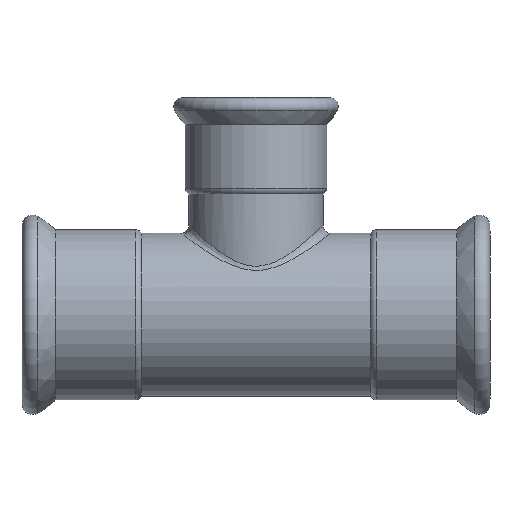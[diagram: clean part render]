
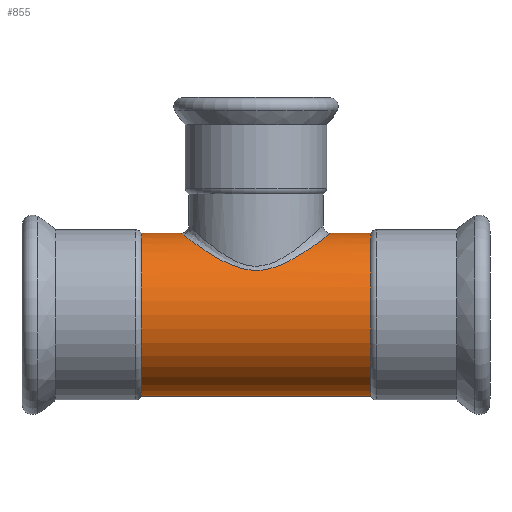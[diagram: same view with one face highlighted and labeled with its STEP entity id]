
A CAD part, front view. The second image highlights one B-rep face of the part: STEP entity #855.
In plain terms, the highlighted cylindrical face has radius 54 mm (diameter 108 mm), a full revolution.
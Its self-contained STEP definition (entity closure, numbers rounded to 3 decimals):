
#16=FACE_BOUND('',#109,.T.);
#22=B_SPLINE_CURVE_WITH_KNOTS('',3,(#2173,#2174,#2175,#2176,#2177,#2178,
#2179,#2180,#2181,#2182,#2183,#2184,#2185,#2186,#2187,#2188,#2189,#2190,
#2191,#2192,#2193,#2194,#2195,#2196,#2197,#2198,#2199,#2200,#2201,#2202,
#2203,#2204,#2205,#2206,#2207),.UNSPECIFIED.,.T.,.F.,(4,1,1,1,1,1,1,1,1,
1,1,1,1,1,1,1,1,1,1,1,1,1,1,1,1,1,1,1,1,1,1,1,4),(-28.921,-28.404,
-27.888,-26.855,-25.822,-24.789,
-23.412,-22.035,-20.658,-19.969,
-19.28,-18.592,-17.903,-16.526,
-15.837,-15.149,-14.46,-13.772,
-13.083,-12.395,-11.706,-11.017,
-9.64,-8.263,-6.886,-5.509,
-4.82,-4.132,-3.099,-2.066,
-1.033,-0.516,0.),.UNSPECIFIED.);
#68=FACE_OUTER_BOUND('',#108,.T.);
#108=EDGE_LOOP('',(#688,#689,#690,#691,#692,#693,#694,#695));
#109=EDGE_LOOP('',(#696));
#138=LINE('',#2219,#159);
#159=VECTOR('',#1244,54.);
#242=CIRCLE('',#984,54.);
#243=CIRCLE('',#985,54.);
#244=CIRCLE('',#986,54.);
#245=CIRCLE('',#987,54.);
#246=CIRCLE('',#988,54.);
#247=CIRCLE('',#989,54.);
#350=VERTEX_POINT('',#2130);
#354=VERTEX_POINT('',#2213);
#355=VERTEX_POINT('',#2214);
#356=VERTEX_POINT('',#2216);
#357=VERTEX_POINT('',#2218);
#358=VERTEX_POINT('',#2220);
#359=VERTEX_POINT('',#2222);
#477=EDGE_CURVE('',#350,#350,#22,.T.);
#480=EDGE_CURVE('',#354,#355,#242,.T.);
#481=EDGE_CURVE('',#355,#356,#243,.T.);
#482=EDGE_CURVE('',#356,#357,#138,.T.);
#483=EDGE_CURVE('',#358,#357,#244,.T.);
#484=EDGE_CURVE('',#359,#358,#245,.T.);
#485=EDGE_CURVE('',#357,#359,#246,.T.);
#486=EDGE_CURVE('',#356,#354,#247,.T.);
#688=ORIENTED_EDGE('',*,*,#480,.T.);
#689=ORIENTED_EDGE('',*,*,#481,.T.);
#690=ORIENTED_EDGE('',*,*,#482,.T.);
#691=ORIENTED_EDGE('',*,*,#483,.F.);
#692=ORIENTED_EDGE('',*,*,#484,.F.);
#693=ORIENTED_EDGE('',*,*,#485,.F.);
#694=ORIENTED_EDGE('',*,*,#482,.F.);
#695=ORIENTED_EDGE('',*,*,#486,.T.);
#696=ORIENTED_EDGE('',*,*,#477,.F.);
#826=CYLINDRICAL_SURFACE('',#983,54.);
#855=ADVANCED_FACE('',(#68,#16),#826,.T.);
#983=AXIS2_PLACEMENT_3D('',#2212,#1238,#1239);
#984=AXIS2_PLACEMENT_3D('',#2215,#1240,#1241);
#985=AXIS2_PLACEMENT_3D('',#2217,#1242,#1243);
#986=AXIS2_PLACEMENT_3D('',#2221,#1245,#1246);
#987=AXIS2_PLACEMENT_3D('',#2223,#1247,#1248);
#988=AXIS2_PLACEMENT_3D('',#2224,#1249,#1250);
#989=AXIS2_PLACEMENT_3D('',#2225,#1251,#1252);
#1238=DIRECTION('center_axis',(1.,0.,0.));
#1239=DIRECTION('ref_axis',(0.,1.,0.));
#1240=DIRECTION('center_axis',(1.,0.,0.));
#1241=DIRECTION('ref_axis',(0.,1.,0.));
#1242=DIRECTION('center_axis',(1.,0.,0.));
#1243=DIRECTION('ref_axis',(0.,1.,0.));
#1244=DIRECTION('',(1.,0.,0.));
#1245=DIRECTION('center_axis',(1.,0.,0.));
#1246=DIRECTION('ref_axis',(0.,1.,0.));
#1247=DIRECTION('center_axis',(1.,0.,0.));
#1248=DIRECTION('ref_axis',(0.,1.,0.));
#1249=DIRECTION('center_axis',(1.,0.,0.));
#1250=DIRECTION('ref_axis',(0.,1.,0.));
#1251=DIRECTION('center_axis',(1.,0.,0.));
#1252=DIRECTION('ref_axis',(0.,1.,0.));
#2130=CARTESIAN_POINT('',(-155.,45.259,29.455));
#2173=CARTESIAN_POINT('Ctrl Pts',(-155.,45.259,29.455));
#2174=CARTESIAN_POINT('Ctrl Pts',(-156.971,45.259,29.455));
#2175=CARTESIAN_POINT('Ctrl Pts',(-160.913,45.042,29.793));
#2176=CARTESIAN_POINT('Ctrl Pts',(-168.465,43.789,31.652));
#2177=CARTESIAN_POINT('Ctrl Pts',(-176.987,40.92,35.442));
#2178=CARTESIAN_POINT('Ctrl Pts',(-185.848,35.802,40.684));
#2179=CARTESIAN_POINT('Ctrl Pts',(-194.235,28.32,46.367));
#2180=CARTESIAN_POINT('Ctrl Pts',(-201.317,17.785,51.594));
#2181=CARTESIAN_POINT('Ctrl Pts',(-205.15,3.745,54.54));
#2182=CARTESIAN_POINT('Ctrl Pts',(-204.06,-8.481,53.696));
#2183=CARTESIAN_POINT('Ctrl Pts',(-200.862,-17.393,51.27));
#2184=CARTESIAN_POINT('Ctrl Pts',(-197.451,-23.534,48.743));
#2185=CARTESIAN_POINT('Ctrl Pts',(-193.287,-28.891,45.749));
#2186=CARTESIAN_POINT('Ctrl Pts',(-186.744,-35.163,41.285));
#2187=CARTESIAN_POINT('Ctrl Pts',(-179.055,-39.947,36.529));
#2188=CARTESIAN_POINT('Ctrl Pts',(-170.203,-43.242,32.406));
#2189=CARTESIAN_POINT('Ctrl Pts',(-162.886,-44.866,30.071));
#2190=CARTESIAN_POINT('Ctrl Pts',(-155.004,-45.458,29.144));
#2191=CARTESIAN_POINT('Ctrl Pts',(-147.11,-44.864,30.073));
#2192=CARTESIAN_POINT('Ctrl Pts',(-139.817,-43.248,32.399));
#2193=CARTESIAN_POINT('Ctrl Pts',(-133.125,-40.761,35.509));
#2194=CARTESIAN_POINT('Ctrl Pts',(-127.078,-37.536,38.928));
#2195=CARTESIAN_POINT('Ctrl Pts',(-119.783,-32.264,43.567));
#2196=CARTESIAN_POINT('Ctrl Pts',(-112.154,-23.886,48.99));
#2197=CARTESIAN_POINT('Ctrl Pts',(-106.169,-11.,53.518));
#2198=CARTESIAN_POINT('Ctrl Pts',(-104.852,3.701,54.54));
#2199=CARTESIAN_POINT('Ctrl Pts',(-108.008,15.374,52.11));
#2200=CARTESIAN_POINT('Ctrl Pts',(-112.555,23.541,48.737));
#2201=CARTESIAN_POINT('Ctrl Pts',(-117.419,29.797,45.245));
#2202=CARTESIAN_POINT('Ctrl Pts',(-124.201,35.838,40.654));
#2203=CARTESIAN_POINT('Ctrl Pts',(-133.027,40.923,35.435));
#2204=CARTESIAN_POINT('Ctrl Pts',(-141.544,43.791,31.649));
#2205=CARTESIAN_POINT('Ctrl Pts',(-149.083,45.04,29.794));
#2206=CARTESIAN_POINT('Ctrl Pts',(-153.029,45.259,29.455));
#2207=CARTESIAN_POINT('Ctrl Pts',(-155.,45.259,29.455));
#2212=CARTESIAN_POINT('Origin',(-220.51,0.,0.));
#2213=CARTESIAN_POINT('',(-231.02,54.,0.));
#2214=CARTESIAN_POINT('',(-231.02,0.,54.));
#2215=CARTESIAN_POINT('Origin',(-231.02,0.,0.));
#2216=CARTESIAN_POINT('',(-231.02,-54.,0.));
#2217=CARTESIAN_POINT('Origin',(-231.02,0.,0.));
#2218=CARTESIAN_POINT('',(-78.98,-54.,0.));
#2219=CARTESIAN_POINT('',(-220.51,-54.,0.));
#2220=CARTESIAN_POINT('',(-78.98,0.,54.));
#2221=CARTESIAN_POINT('Origin',(-78.98,0.,0.));
#2222=CARTESIAN_POINT('',(-78.98,54.,0.));
#2223=CARTESIAN_POINT('Origin',(-78.98,0.,0.));
#2224=CARTESIAN_POINT('Origin',(-78.98,0.,0.));
#2225=CARTESIAN_POINT('Origin',(-231.02,0.,0.));
